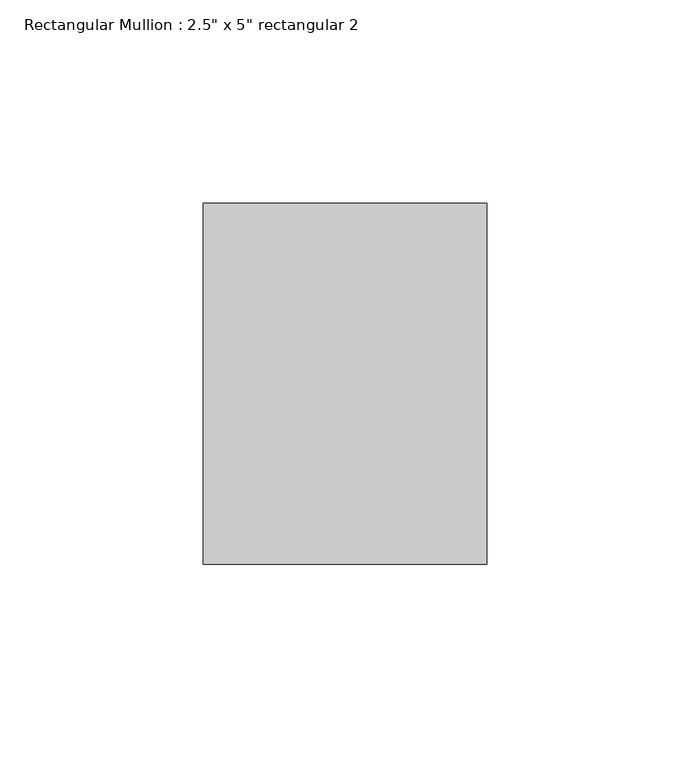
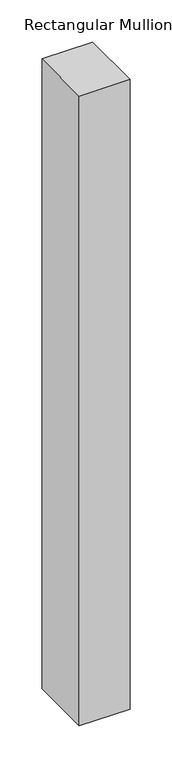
"""IFC4 building model written with IfcOpenShell, lengths in millimetres: member geometry."""

import ifcopenshell
import ifcopenshell.guid

model = None  # the IFC model being written
_history = None  # IfcOwnerHistory: only IFC2X3 demands one
_inside = {}  # id of a spatial element -> (the spatial element, [elements in it])
_under = {}  # id of a project, library or spatial element -> (it, [spatial elements below it])
_declared = {}  # id of a project -> (the project, [libraries it declares])
_typed = {}  # id of a type object -> (the type object, [elements of that type])
_made_of = {}  # id of a material, layer set ... -> (it, [elements and type objects made of it])


def new_model(schema):
    """Start an empty IFC model of exactly this schema.

    Asked for "IFC4X3", IfcOpenShell would pick the latest addendum, in which some entities
    have other attributes; the version numbers below select the first issue.
    IFC2X3 requires an IfcOwnerHistory on every rooted entity: one is made here for all.
    """
    global model, _history
    if schema == "IFC4X3":
        model = ifcopenshell.file(schema_version=(4, 3, 0, 0))
    else:
        model = ifcopenshell.file(schema=schema)
    _inside.clear()
    _under.clear()
    _declared.clear()
    _typed.clear()
    _made_of.clear()
    _history = None
    if model.schema == "IFC2X3":
        org = make("IfcOrganization", Name="unknown")
        user = make(
            "IfcPersonAndOrganization",
            ThePerson=make("IfcPerson", FamilyName="unknown"),
            TheOrganization=org,
        )
        app = make(
            "IfcApplication",
            ApplicationDeveloper=org,
            Version="unknown",
            ApplicationFullName="unknown",
            ApplicationIdentifier="unknown",
        )
        _history = make(
            "IfcOwnerHistory",
            OwningUser=user,
            OwningApplication=app,
            ChangeAction="ADDED",
            CreationDate=0,
        )
    return model


def make(cls, **values):
    """One entity of the class cls with the attributes given. An attribute that is None is left unset."""
    return model.create_entity(
        cls, **{name: value for name, value in values.items() if value is not None}
    )


def rooted(cls, **values):
    """An entity with a GlobalId (a new one), such as an element, a storey or a relation."""
    return make(cls, GlobalId=ifcopenshell.guid.new(), OwnerHistory=_history, **values)


def si_unit(unit_type, name, prefix=None):
    """IfcSIUnit, for example si_unit("LENGTHUNIT", "METRE", prefix="MILLI")."""
    return make("IfcSIUnit", UnitType=unit_type, Prefix=prefix, Name=name)


def assignment(units):
    """IfcUnitAssignment: the units of a project."""
    return None if units is None else make("IfcUnitAssignment", Units=units)


def point(xyz):
    """IfcCartesianPoint."""
    return None if xyz is None else make("IfcCartesianPoint", Coordinates=xyz)


def direction(xyz):
    """IfcDirection."""
    return None if xyz is None else make("IfcDirection", DirectionRatios=xyz)


def frame(location, z_axis=None, x_axis=None):
    """IfcAxis2Placement3D, a coordinate frame: its origin and axes. An axis left out is left unset."""
    return make(
        "IfcAxis2Placement3D",
        Location=point(location),
        Axis=direction(z_axis),
        RefDirection=direction(x_axis),
    )


def origin():
    """The frame at (0, 0, 0) with its axes left unset."""
    return frame((0.0, 0.0, 0.0))


def place(relative_to, where):
    """IfcLocalPlacement: puts the frame where relative to a parent placement (None: the world)."""
    return make(
        "IfcLocalPlacement", PlacementRelTo=relative_to, RelativePlacement=where
    )


def context(
    kind, dimensions, precision=None, world=None, true_north=None, identifier=None
):
    """IfcGeometricRepresentationContext, for example the 3D "Model" context."""
    return make(
        "IfcGeometricRepresentationContext",
        ContextIdentifier=identifier,
        ContextType=kind,
        CoordinateSpaceDimension=dimensions,
        Precision=precision,
        WorldCoordinateSystem=world,
        TrueNorth=true_north,
    )


def project(units=None, contexts=None):
    """IfcProject with its units and contexts."""
    return rooted(
        "IfcProject",
        Name="project",
        RepresentationContexts=contexts,
        UnitsInContext=assignment(units),
    )


def spatial(cls, under=None, at=None, **own):
    """A site, building, storey or space (cls), placed at a placement, below another one or the project."""
    s = rooted(cls, ObjectPlacement=at, **own)
    if under is not None:
        _under.setdefault(under.id(), (under, []))[1].append(s)
    return s


def polyline(points):
    """IfcPolyline through the points."""
    return make("IfcPolyline", Points=[point(p) for p in points])


def outline(outer, holes=None, kind="AREA"):
    """IfcArbitraryClosedProfileDef: a profile drawn as a closed curve; with holes, ...WithVoids."""
    if holes is None:
        return make("IfcArbitraryClosedProfileDef", ProfileType=kind, OuterCurve=outer)
    return make(
        "IfcArbitraryProfileDefWithVoids",
        ProfileType=kind,
        OuterCurve=outer,
        InnerCurves=holes,
    )


def extrude(swept, where, along, depth):
    """IfcExtrudedAreaSolid: the profile swept, set in the frame where, extruded along a direction by depth."""
    return make(
        "IfcExtrudedAreaSolid",
        SweptArea=swept,
        Position=where,
        ExtrudedDirection=direction(along),
        Depth=depth,
    )


def shape(context_of_items, identifier, shape_type, items):
    """IfcShapeRepresentation: the items that make up one representation, for example the "Body"."""
    return make(
        "IfcShapeRepresentation",
        ContextOfItems=context_of_items,
        RepresentationIdentifier=identifier,
        RepresentationType=shape_type,
        Items=items,
    )


def source(mapping_origin, context_of_items, identifier, shape_type, items):
    """IfcRepresentationMap: a shape defined once, which mapped items show again and again."""
    return make(
        "IfcRepresentationMap",
        MappingOrigin=mapping_origin,
        MappedRepresentation=shape(context_of_items, identifier, shape_type, items),
    )


def transform(
    local_origin,
    x_axis=None,
    y_axis=None,
    z_axis=None,
    scale=None,
    scale2=None,
    scale3=None,
    uniform=True,
):
    """IfcCartesianTransformationOperator3D, or its non-uniform kind. x_axis, y_axis, z_axis: its Axis1, 2, 3."""
    if uniform:
        return make(
            "IfcCartesianTransformationOperator3D",
            Axis1=direction(x_axis),
            Axis2=direction(y_axis),
            LocalOrigin=point(local_origin),
            Scale=scale,
            Axis3=direction(z_axis),
        )
    return make(
        "IfcCartesianTransformationOperator3DnonUniform",
        Axis1=direction(x_axis),
        Axis2=direction(y_axis),
        LocalOrigin=point(local_origin),
        Scale=scale,
        Axis3=direction(z_axis),
        Scale2=scale2,
        Scale3=scale3,
    )


def mapped(mapping_source, mapping_target):
    """IfcMappedItem: shows the shape of a source again, moved by a transform."""
    return make(
        "IfcMappedItem", MappingSource=mapping_source, MappingTarget=mapping_target
    )


def made_of(thing, what):
    """Note that an element or type object is made of a material, layer set ...; save() writes the relation."""
    if what is not None:
        _made_of.setdefault(what.id(), (what, []))[1].append(thing)
    return thing


def element(
    cls,
    number,
    at=None,
    inside=None,
    cuts=None,
    type_object=None,
    material=None,
    context=None,
    identifier="Body",
    shape_type=None,
    held_by="IfcProductDefinitionShape",
    body=None,
    shapes=None,
    **own,
):
    """One element of the class cls, such as IfcWall. Its Tag is "e" and its number.

    at: its placement. inside: the storey or other place that contains it. cuts: it is an
    opening in that element (IfcRelVoidsElement). A single representation is given by context,
    identifier, shape_type and body (its items); several are given by shapes. held_by: the class
    of the entity that holds the representations. save() writes the other relations.
    """
    e = rooted(cls, Tag="e%d" % number, ObjectPlacement=at, **own)
    if body is not None:
        shapes = [shape(context, identifier, shape_type, body)]
    if shapes is not None:
        e.Representation = make(held_by, Representations=shapes)
    if inside is not None:
        _inside.setdefault(inside.id(), (inside, []))[1].append(e)
    if cuts is not None:
        rooted(
            "IfcRelVoidsElement", RelatingBuildingElement=cuts, RelatedOpeningElement=e
        )
    if type_object is not None:
        _typed.setdefault(type_object.id(), (type_object, []))[1].append(e)
    return made_of(e, material)


def aggregate(whole, parts):
    """IfcRelAggregates: a whole, such as a stair, and the parts it consists of."""
    return rooted("IfcRelAggregates", RelatingObject=whole, RelatedObjects=parts)


def save(model, path):
    """Write the relations noted so far, then the file.

    IfcRelAggregates (storeys below a building ...), IfcRelContainedInSpatialStructure (elements
    in a storey), IfcRelDefinesByType, IfcRelAssociatesMaterial and IfcRelDeclares: one each for
    every whole, place, type object, material and project.
    """
    for whole, parts in _under.values():
        aggregate(whole, parts)
    for where, things in _inside.values():
        rooted(
            "IfcRelContainedInSpatialStructure",
            RelatedElements=things,
            RelatingStructure=where,
        )
    for kind, things in _typed.values():
        rooted("IfcRelDefinesByType", RelatedObjects=things, RelatingType=kind)
    for what, things in _made_of.values():
        rooted("IfcRelAssociatesMaterial", RelatedObjects=things, RelatingMaterial=what)
    for by, libraries in _declared.values():
        rooted("IfcRelDeclares", RelatingContext=by, RelatedDefinitions=libraries)
    model.write(path)


def member_6a0027a9(model_context):
    return source(origin(), model_context, "Body", "SweptSolid", [
        extrude(outline(polyline([(0.0, 44.45), (0.0, -44.45), (-69.85, -44.45), (-69.85, 44.45), (0.0, 44.45)])), frame((0.0, 0.0, -914.4), z_axis=(0.0, 0.0, 1.0), x_axis=(1.0, 0.0, 0.0)), (0.0, 0.0, 1.0), 914.4),
    ])


if __name__ == "__main__":
    model = new_model("IFC4")
    model_context = context("Model", 3, world=origin())
    ifc_project = project(units=[si_unit("LENGTHUNIT", "METRE", prefix="MILLI")], contexts=[model_context])
    site = spatial("IfcSite", under=ifc_project)
    building = spatial("IfcBuilding", under=site)
    placement = place(None, origin())
    member_shape = member_6a0027a9(model_context)
    element("IfcMember", 1, ObjectType="Rectangular Mullion : 2.5\" x 5\" rectangular 2", at=placement, inside=building, context=model_context, shape_type="MappedRepresentation", body=[
        mapped(member_shape, transform((0.0, 0.0, 0.0), x_axis=(1.0, 0.0, 0.0), y_axis=(0.0, 1.0, 0.0), z_axis=(0.0, 0.0, 1.0))),
    ])
    save(model, "model.ifc")
